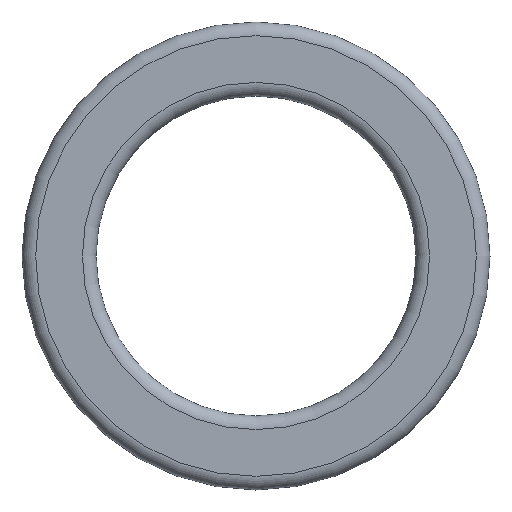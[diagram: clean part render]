
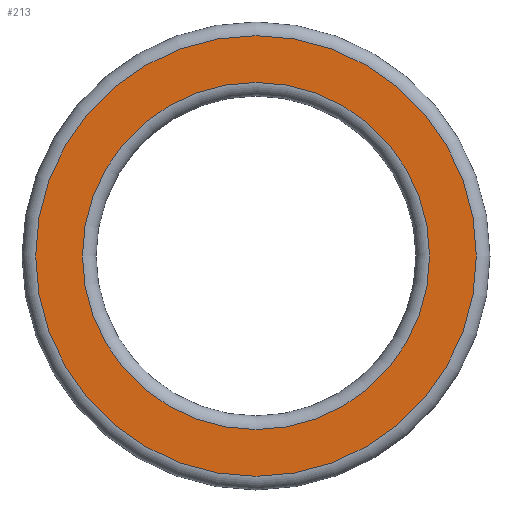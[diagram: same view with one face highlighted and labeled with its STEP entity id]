
A CAD part, front view. The second image highlights one B-rep face of the part: STEP entity #213.
In plain terms, the highlighted planar face has unit normal (0, -1, 0).
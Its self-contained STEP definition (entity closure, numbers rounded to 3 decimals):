
#66 = TOROIDAL_SURFACE('',#67,113.,7.);
#67 = AXIS2_PLACEMENT_3D('',#68,#69,#70);
#68 = CARTESIAN_POINT('',(0.,-25.,0.));
#69 = DIRECTION('',(0.,-1.,-0.));
#70 = DIRECTION('',(1.,0.,0.));
#109 = VERTEX_POINT('',#110);
#110 = CARTESIAN_POINT('',(113.,-32.,0.));
#132 = EDGE_CURVE('',#109,#109,#133,.T.);
#133 = SURFACE_CURVE('',#134,(#139,#146),.PCURVE_S1.);
#134 = CIRCLE('',#135,113.);
#135 = AXIS2_PLACEMENT_3D('',#136,#137,#138);
#136 = CARTESIAN_POINT('',(0.,-32.,0.));
#137 = DIRECTION('',(0.,-1.,-0.));
#138 = DIRECTION('',(1.,0.,0.));
#139 = PCURVE('',#66,#140);
#140 = DEFINITIONAL_REPRESENTATION('',(#141),#145);
#141 = LINE('',#142,#143);
#142 = CARTESIAN_POINT('',(0.,1.571));
#143 = VECTOR('',#144,1.);
#144 = DIRECTION('',(1.,0.));
#145 = ( GEOMETRIC_REPRESENTATION_CONTEXT(2) 
PARAMETRIC_REPRESENTATION_CONTEXT() REPRESENTATION_CONTEXT('2D SPACE',''
  ) );
#146 = PCURVE('',#147,#152);
#147 = PLANE('',#148);
#148 = AXIS2_PLACEMENT_3D('',#149,#150,#151);
#149 = CARTESIAN_POINT('',(0.,-32.,0.)
  );
#150 = DIRECTION('',(-0.,-1.,-0.));
#151 = DIRECTION('',(0.,0.,-1.));
#152 = DEFINITIONAL_REPRESENTATION('',(#153),#157);
#153 = CIRCLE('',#154,113.);
#154 = AXIS2_PLACEMENT_2D('',#155,#156);
#155 = CARTESIAN_POINT('',(0.,0.));
#156 = DIRECTION('',(0.,1.));
#157 = ( GEOMETRIC_REPRESENTATION_CONTEXT(2) 
PARAMETRIC_REPRESENTATION_CONTEXT() REPRESENTATION_CONTEXT('2D SPACE',''
  ) );
#213 = ADVANCED_FACE('',(#214,#217),#147,.T.);
#214 = FACE_BOUND('',#215,.T.);
#215 = EDGE_LOOP('',(#216));
#216 = ORIENTED_EDGE('',*,*,#132,.T.);
#217 = FACE_BOUND('',#218,.T.);
#218 = EDGE_LOOP('',(#219));
#219 = ORIENTED_EDGE('',*,*,#220,.F.);
#220 = EDGE_CURVE('',#221,#221,#223,.T.);
#221 = VERTEX_POINT('',#222);
#222 = CARTESIAN_POINT('',(89.,-32.,0.));
#223 = SURFACE_CURVE('',#224,(#229,#236),.PCURVE_S1.);
#224 = CIRCLE('',#225,89.);
#225 = AXIS2_PLACEMENT_3D('',#226,#227,#228);
#226 = CARTESIAN_POINT('',(0.,-32.,0.)
  );
#227 = DIRECTION('',(0.,-1.,-0.));
#228 = DIRECTION('',(1.,0.,0.));
#229 = PCURVE('',#147,#230);
#230 = DEFINITIONAL_REPRESENTATION('',(#231),#235);
#231 = CIRCLE('',#232,89.);
#232 = AXIS2_PLACEMENT_2D('',#233,#234);
#233 = CARTESIAN_POINT('',(0.,0.));
#234 = DIRECTION('',(0.,1.));
#235 = ( GEOMETRIC_REPRESENTATION_CONTEXT(2) 
PARAMETRIC_REPRESENTATION_CONTEXT() REPRESENTATION_CONTEXT('2D SPACE',''
  ) );
#236 = PCURVE('',#237,#242);
#237 = TOROIDAL_SURFACE('',#238,89.,7.);
#238 = AXIS2_PLACEMENT_3D('',#239,#240,#241);
#239 = CARTESIAN_POINT('',(0.,-25.,0.)
  );
#240 = DIRECTION('',(0.,-1.,-0.));
#241 = DIRECTION('',(1.,0.,0.));
#242 = DEFINITIONAL_REPRESENTATION('',(#243),#247);
#243 = LINE('',#244,#245);
#244 = CARTESIAN_POINT('',(0.,1.571));
#245 = VECTOR('',#246,1.);
#246 = DIRECTION('',(1.,0.));
#247 = ( GEOMETRIC_REPRESENTATION_CONTEXT(2) 
PARAMETRIC_REPRESENTATION_CONTEXT() REPRESENTATION_CONTEXT('2D SPACE',''
  ) );
